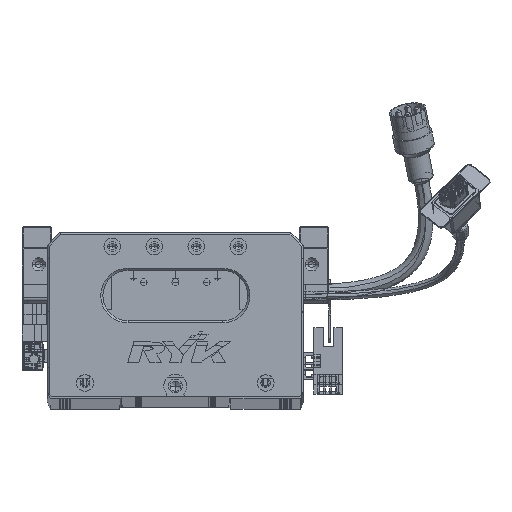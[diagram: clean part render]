
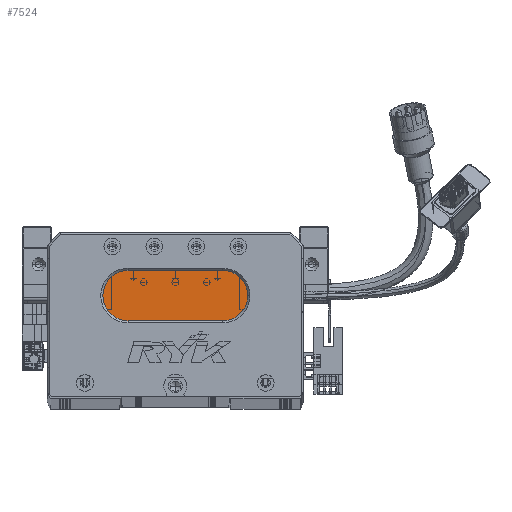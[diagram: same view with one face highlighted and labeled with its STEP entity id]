
A CAD part, top view. The second image highlights one B-rep face of the part: STEP entity #7524.
In plain terms, the highlighted planar face has unit normal (0, 0, 1) as drawn and (0, 0, -1) by its records, which use the part's own axes.
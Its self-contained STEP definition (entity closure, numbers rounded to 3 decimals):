
#373 = EDGE_LOOP ( 'NONE', ( #24994, #79141, #29623, #67852, #31100 ) ) ;
#4330 = DIRECTION ( 'NONE',  ( -1., 0., 0. ) ) ;
#7524 = ADVANCED_FACE ( 'NONE', ( #103129 ), #43978, .T. ) ;
#13919 = DIRECTION ( 'NONE',  ( -1., 0., 0. ) ) ;
#14803 = AXIS2_PLACEMENT_3D ( 'NONE', #64171, #74247, #13919 ) ;
#15981 = CARTESIAN_POINT ( 'NONE',  ( 83.5, 36., 13. ) ) ;
#16171 = LINE ( 'NONE', #15981, #101177 ) ;
#24994 = ORIENTED_EDGE ( 'NONE', *, *, #28650, .T. ) ;
#25011 = DIRECTION ( 'NONE',  ( 0., 0., -1. ) ) ;
#28650 = EDGE_CURVE ( 'NONE', #108016, #52951, #30828, .T. ) ;
#29496 = LINE ( 'NONE', #116326, #100325 ) ;
#29623 = ORIENTED_EDGE ( 'NONE', *, *, #46765, .T. ) ;
#30112 = CARTESIAN_POINT ( 'NONE',  ( 38.5, 60., 13. ) ) ;
#30647 = VERTEX_POINT ( 'NONE', #41381 ) ;
#30828 = CIRCLE ( 'NONE', #94866, 12. ) ;
#31100 = ORIENTED_EDGE ( 'NONE', *, *, #106700, .T. ) ;
#36216 = DIRECTION ( 'NONE',  ( 1., 0., 0. ) ) ;
#41381 = CARTESIAN_POINT ( 'NONE',  ( 38.5, 36., 13. ) ) ;
#43978 = PLANE ( 'NONE',  #14803 ) ;
#46416 = DIRECTION ( 'NONE',  ( -1., 0., 0. ) ) ;
#46765 = EDGE_CURVE ( 'NONE', #30647, #117593, #110408, .T. ) ;
#49971 = AXIS2_PLACEMENT_3D ( 'NONE', #97240, #118406, #58147 ) ;
#50440 = CARTESIAN_POINT ( 'NONE',  ( 83.5, 48., 13. ) ) ;
#52951 = VERTEX_POINT ( 'NONE', #129447 ) ;
#58147 = DIRECTION ( 'NONE',  ( -1., 0., 0. ) ) ;
#63419 = VERTEX_POINT ( 'NONE', #30112 ) ;
#64171 = CARTESIAN_POINT ( 'NONE',  ( 83.5, 48., 13. ) ) ;
#64691 = CARTESIAN_POINT ( 'NONE',  ( 38.5, 48., 13. ) ) ;
#67852 = ORIENTED_EDGE ( 'NONE', *, *, #110966, .T. ) ;
#71076 = DIRECTION ( 'NONE',  ( -1., 0., 0. ) ) ;
#74247 = DIRECTION ( 'NONE',  ( 0., 0., -1. ) ) ;
#76872 = EDGE_CURVE ( 'NONE', #52951, #30647, #16171, .T. ) ;
#79141 = ORIENTED_EDGE ( 'NONE', *, *, #76872, .T. ) ;
#84491 = AXIS2_PLACEMENT_3D ( 'NONE', #64691, #25011, #4330 ) ;
#94866 = AXIS2_PLACEMENT_3D ( 'NONE', #50440, #101386, #71076 ) ;
#97240 = CARTESIAN_POINT ( 'NONE',  ( 38.5, 48., 13. ) ) ;
#100325 = VECTOR ( 'NONE', #36216, 1000. ) ;
#101177 = VECTOR ( 'NONE', #46416, 1000. ) ;
#101386 = DIRECTION ( 'NONE',  ( 0., 0., -1. ) ) ;
#103129 = FACE_OUTER_BOUND ( 'NONE', #373, .T. ) ;
#106700 = EDGE_CURVE ( 'NONE', #63419, #108016, #29496, .T. ) ;
#108016 = VERTEX_POINT ( 'NONE', #120795 ) ;
#110408 = CIRCLE ( 'NONE', #84491, 12. ) ;
#110966 = EDGE_CURVE ( 'NONE', #117593, #63419, #120110, .T. ) ;
#116326 = CARTESIAN_POINT ( 'NONE',  ( 83.5, 60., 13. ) ) ;
#117593 = VERTEX_POINT ( 'NONE', #119009 ) ;
#118406 = DIRECTION ( 'NONE',  ( 0., 0., -1. ) ) ;
#119009 = CARTESIAN_POINT ( 'NONE',  ( 26.5, 48., 13. ) ) ;
#120110 = CIRCLE ( 'NONE', #49971, 12. ) ;
#120795 = CARTESIAN_POINT ( 'NONE',  ( 83.5, 60., 13. ) ) ;
#129447 = CARTESIAN_POINT ( 'NONE',  ( 83.5, 36., 13. ) ) ;
